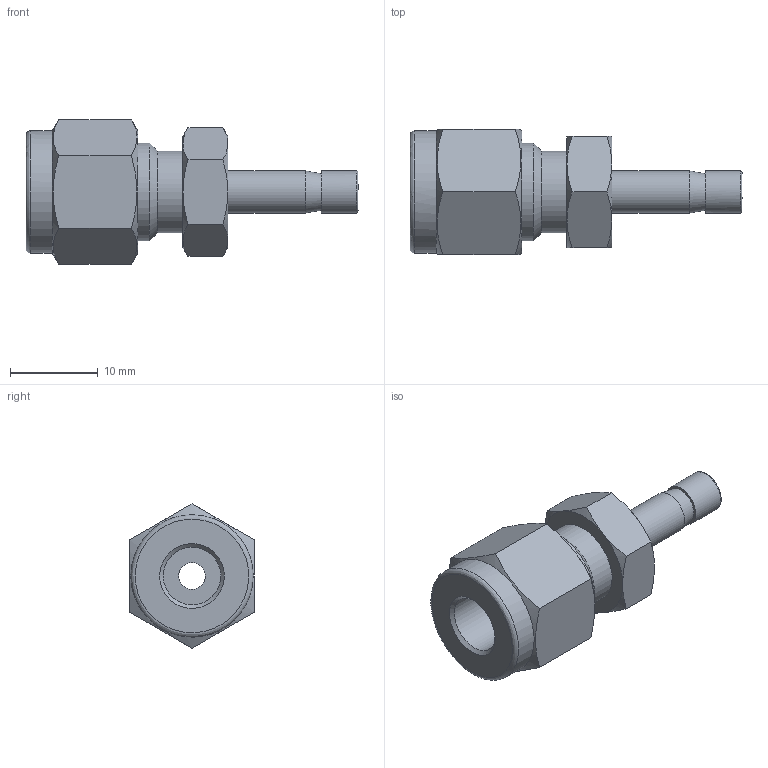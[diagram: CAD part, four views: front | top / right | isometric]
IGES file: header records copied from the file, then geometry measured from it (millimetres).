
Global section: file name: SR-4-3; native system: Autodesk Inventor 2016; preprocessor: unknown; author: DESIGNPC2; date: 20151111.163658; units: millimetre
Bounding box: 37.74 x 14.2 x 16.4 mm (x, y, z)
Volume: 2824.5 mm3; surface area: 2161.7 mm2
Topology: 1 solids, 1 shells, 45 faces, 116 edges, 78 vertices
Faces by surface type: bspline 45
